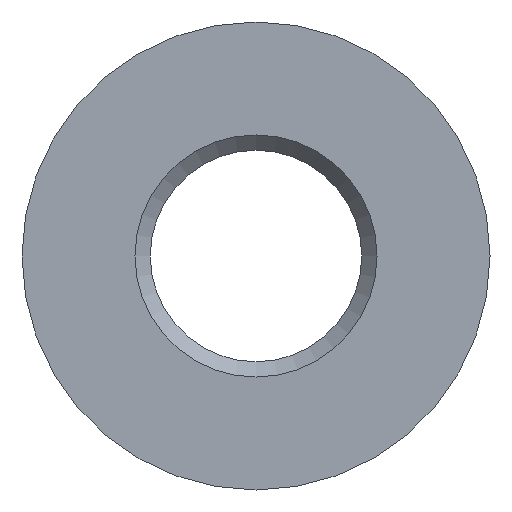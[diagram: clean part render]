
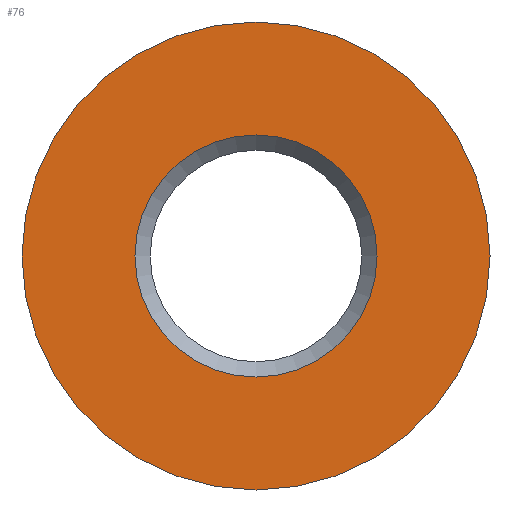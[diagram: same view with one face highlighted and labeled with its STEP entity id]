
A CAD part, front view. The second image highlights one B-rep face of the part: STEP entity #76.
In plain terms, the highlighted planar face has unit normal (0, -1, 0).
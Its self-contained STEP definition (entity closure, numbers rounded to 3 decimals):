
#76 = ADVANCED_FACE( '', ( #97, #98 ), #99, .F. );
#97 = FACE_BOUND( '', #142, .T. );
#98 = FACE_OUTER_BOUND( '', #143, .T. );
#99 = PLANE( '', #144 );
#142 = EDGE_LOOP( '', ( #193 ) );
#143 = EDGE_LOOP( '', ( #194 ) );
#144 = AXIS2_PLACEMENT_3D( '', #195, #196, #197 );
#193 = ORIENTED_EDGE( '', *, *, #319, .F. );
#194 = ORIENTED_EDGE( '', *, *, #320, .T. );
#195 = CARTESIAN_POINT( '', ( 29., 0., 0. ) );
#196 = DIRECTION( '', ( 0., 1., 0. ) );
#197 = DIRECTION( '', ( 0., 0., 1. ) );
#319 = EDGE_CURVE( '', #360, #360, #361, .T. );
#320 = EDGE_CURVE( '', #362, #362, #363, .T. );
#360 = VERTEX_POINT( '', #439 );
#361 = CIRCLE( '', #440, 15. );
#362 = VERTEX_POINT( '', #441 );
#363 = CIRCLE( '', #442, 29. );
#439 = CARTESIAN_POINT( '', ( 0., 0., -15. ) );
#440 = AXIS2_PLACEMENT_3D( '', #585, #586, #587 );
#441 = CARTESIAN_POINT( '', ( 0., 0., -29. ) );
#442 = AXIS2_PLACEMENT_3D( '', #588, #589, #590 );
#585 = CARTESIAN_POINT( '', ( 0., 0., 0. ) );
#586 = DIRECTION( '', ( 0., -1., 0. ) );
#587 = DIRECTION( '', ( 0., 0., -1. ) );
#588 = CARTESIAN_POINT( '', ( 0., 0., 0. ) );
#589 = DIRECTION( '', ( 0., -1., 0. ) );
#590 = DIRECTION( '', ( 0., 0., -1. ) );
